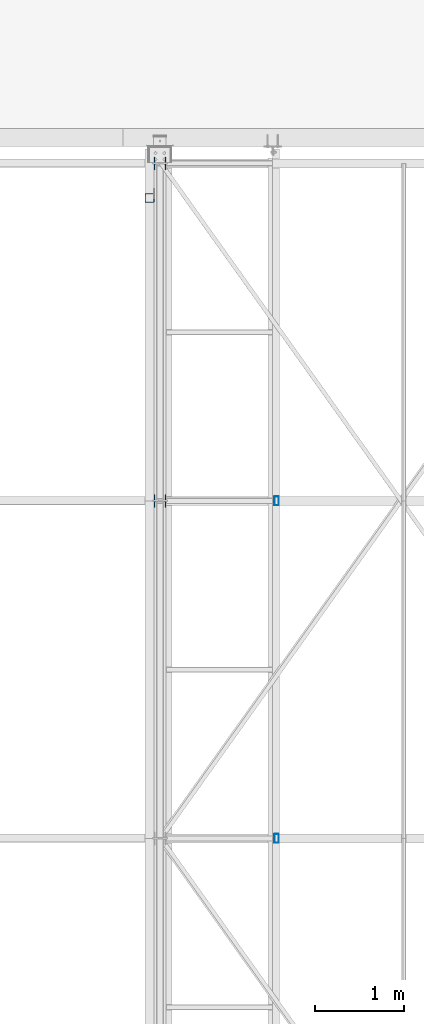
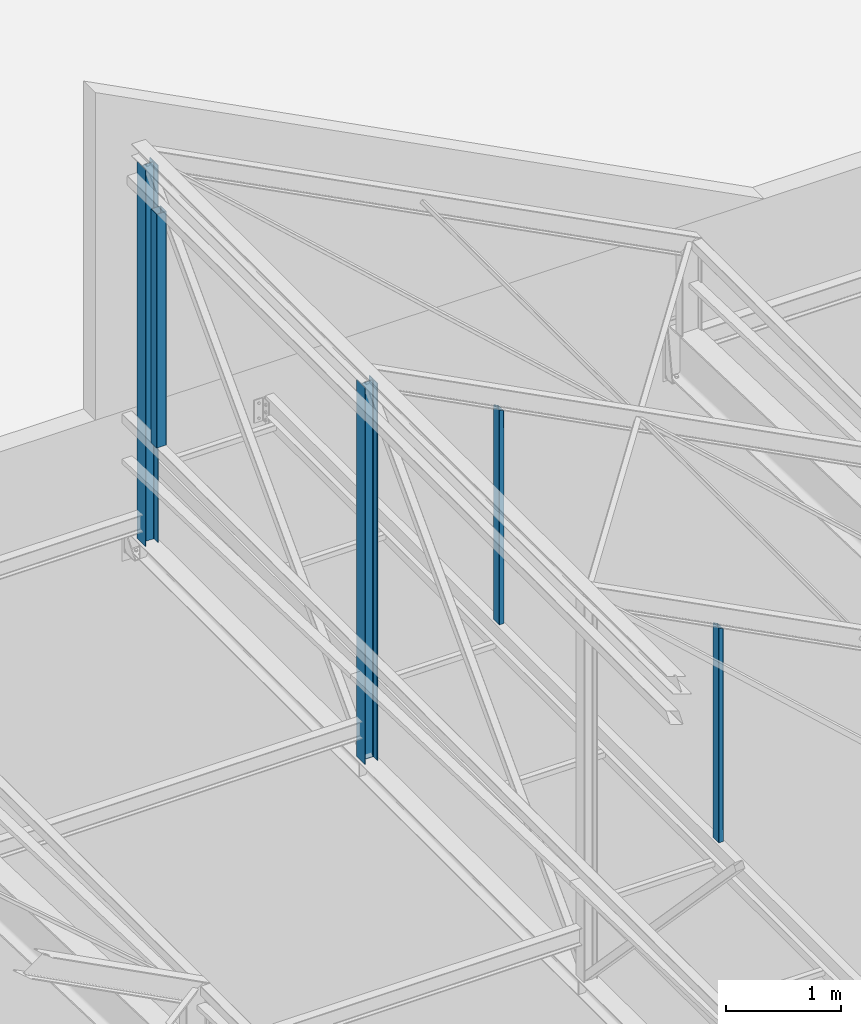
# One storey, part 9 of 123: 5 columns, 5 elements without a shape of their own.
"""IFC2X3 building model written with IfcOpenShell, lengths in millimetres."""

from ifc_helpers import new_model, si_unit, frame, origin_with_axes, origin_2d_with_axis, place, context, subcontext, project, spatial, hollow_rectangle, i_section, extrude, clip, halfspace, material, type_object, element, aggregate, save


model = new_model("IFC2X3")

# Units and contexts
model_context = context("Model", 3, precision=1e-05, world=origin_with_axes())
body_context = subcontext(model_context, "Body", "Model", "MODEL_VIEW")
ifc_project = project(units=[si_unit("LENGTHUNIT", "METRE", prefix="MILLI"), si_unit("AREAUNIT", "SQUARE_METRE"), si_unit("VOLUMEUNIT", "CUBIC_METRE"), si_unit("MASSUNIT", "GRAM", prefix="KILO"), si_unit("TIMEUNIT", "SECOND"), si_unit("PLANEANGLEUNIT", "RADIAN"), si_unit("SOLIDANGLEUNIT", "STERADIAN"), si_unit("THERMODYNAMICTEMPERATUREUNIT", "DEGREE_CELSIUS"), si_unit("LUMINOUSINTENSITYUNIT", "LUMEN")], contexts=[model_context])

# Site, building, storey
site_placement = place(None, origin_with_axes())
site = spatial("IfcSite", under=ifc_project, at=site_placement, Name="Undefined", CompositionType="ELEMENT")
building_placement = place(site_placement, origin_with_axes())
building = spatial("IfcBuilding", under=site, at=building_placement, Name="Undefined", CompositionType="ELEMENT")
storey_placement = place(building_placement, origin_with_axes())
storey = spatial("IfcBuildingStorey", under=building, at=storey_placement, Name="Undefined", CompositionType="ELEMENT", Elevation=0.0)

# Assembly, column
assembly_1_placement = place(storey_placement, origin_with_axes())
assembly_1 = element("IfcElementAssembly", 1, at=assembly_1_placement, inside=storey, Name="Steel Assembly", AssemblyPlace="NOTDEFINED", PredefinedType="RIGID_FRAME")
ifc_material_1 = material(Name="STEEL/S235-E24")
column_type_1 = type_object("IfcColumnType", Name="TUBE-R-100*50*3", PredefinedType="NOTDEFINED")
column_1_placement = place(assembly_1_placement, frame((24783.9916006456, 11400.0, 8240.0), z_axis=(0.0, 0.0, 1.0), x_axis=(0.0, -1.0, 0.0)))
column_1 = element("IfcColumn", 2, at=column_1_placement, type_object=column_type_1, material=ifc_material_1, Name="SUSPENTE", ObjectType="TUBE-R-100*50*3", context=body_context, shape_type="Clipping", body=[
    clip(extrude(hollow_rectangle(XDim=50.0, YDim=100.0, WallThickness=3.0, InnerFilletRadius=3.0, OuterFilletRadius=6.0, at=origin_2d_with_axis()), frame((0.0, 0.0, 2272.19184626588), z_axis=(0.0, 0.0, -1.0), x_axis=(0.0, 1.0, 0.0)), (0.0, 0.0, 1.0), 2272.2), halfspace(frame((0.0, -46.0305694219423, 2282.96030677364), z_axis=(0.0, -0.460093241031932, -0.887870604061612), x_axis=(1.0, 0.0, 0.0)), True)),
])
aggregate(assembly_1, [column_1])

assembly_2_placement = place(storey_placement, origin_with_axes())
assembly_2 = element("IfcElementAssembly", 3, at=assembly_2_placement, inside=storey, Name="Steel Assembly", AssemblyPlace="NOTDEFINED", PredefinedType="RIGID_FRAME")
column_2_placement = place(assembly_2_placement, frame((24783.9916006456, 7600.0, 8240.0), z_axis=(0.0, 0.0, 1.0), x_axis=(0.0, -1.0, 0.0)))
column_2 = element("IfcColumn", 4, at=column_2_placement, type_object=column_type_1, material=ifc_material_1, Name="SUSPENTE", ObjectType="TUBE-R-100*50*3", context=body_context, shape_type="Clipping", body=[
    clip(extrude(hollow_rectangle(XDim=50.0, YDim=100.0, WallThickness=3.0, InnerFilletRadius=3.0, OuterFilletRadius=6.0, at=origin_2d_with_axis()), frame((0.0, 0.0, 2272.19184626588), z_axis=(0.0, 0.0, -1.0), x_axis=(0.0, 1.0, 0.0)), (0.0, 0.0, 1.0), 2272.2), halfspace(frame((0.0, -46.0305694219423, 2282.96030677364), z_axis=(0.0, -0.460093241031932, -0.887870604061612), x_axis=(1.0, 0.0, 0.0)), True)),
])
aggregate(assembly_2, [column_2])

assembly_3_placement = place(storey_placement, origin_with_axes())
assembly_3 = element("IfcElementAssembly", 5, at=assembly_3_placement, inside=storey, Name="Steel Assembly", AssemblyPlace="NOTDEFINED", PredefinedType="RIGID_FRAME")
ifc_material_2 = material(Name="STEEL/S275-E28")
column_type_2 = type_object("IfcColumnType", Name="HEA140", PredefinedType="NOTDEFINED")
column_3_placement = place(assembly_3_placement, frame((23470.0, 11400.0, 7250.0), z_axis=(0.0, 0.0, 1.0), x_axis=(-1.0, 0.0, 0.0)))
column_3 = element("IfcColumn", 6, at=column_3_placement, type_object=column_type_2, material=ifc_material_2, Name="MONTANT", ObjectType="HEA140", context=body_context, shape_type="SweptSolid", body=[
    extrude(i_section(OverallWidth=140.0, OverallDepth=133.0, WebThickness=5.5, FlangeThickness=8.5, FilletRadius=12.0, at=origin_2d_with_axis()), frame((0.0, 0.0, 3986.0), z_axis=(0.0, 0.0, -1.0), x_axis=(0.0, 1.0, 0.0)), (0.0, 0.0, 1.0), 3986.0),
])
aggregate(assembly_3, [column_3])

assembly_4_placement = place(storey_placement, origin_with_axes())
assembly_4 = element("IfcElementAssembly", 7, at=assembly_4_placement, inside=storey, Name="Steel Assembly", AssemblyPlace="NOTDEFINED", PredefinedType="RIGID_FRAME")
column_4_placement = place(assembly_4_placement, frame((23470.0, 15200.0, 7250.0), z_axis=(0.0, 0.0, 1.0), x_axis=(-1.0, 0.0, 0.0)))
column_4 = element("IfcColumn", 8, at=column_4_placement, type_object=column_type_2, material=ifc_material_2, Name="MONTANT", ObjectType="HEA140", context=body_context, shape_type="SweptSolid", body=[
    extrude(i_section(OverallWidth=140.0, OverallDepth=133.0, WebThickness=5.5, FlangeThickness=8.5, FilletRadius=12.0, at=origin_2d_with_axis()), frame((0.0, 0.0, 3986.0), z_axis=(0.0, 0.0, -1.0), x_axis=(0.0, 1.0, 0.0)), (0.0, 0.0, 1.0), 3986.0),
])
aggregate(assembly_4, [column_4])

assembly_5_placement = place(storey_placement, origin_with_axes())
assembly_5 = element("IfcElementAssembly", 9, at=assembly_5_placement, inside=storey, Name="Steel Assembly", AssemblyPlace="NOTDEFINED", PredefinedType="RIGID_FRAME")
column_type_3 = type_object("IfcColumnType", Name="TUBE-C-100*100*4", PredefinedType="NOTDEFINED")
column_5_placement = place(assembly_5_placement, frame((23353.5000102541, 14810.0000787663, 8550.00000000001), z_axis=(0.0, 0.0, 1.0), x_axis=(0.0, 1.0, 0.0)))
column_5 = element("IfcColumn", 10, at=column_5_placement, type_object=column_type_3, material=ifc_material_1, Name="MONTANT", ObjectType="TUBE-C-100*100*4", context=body_context, shape_type="SweptSolid", body=[
    extrude(hollow_rectangle(XDim=100.0, YDim=100.0, WallThickness=4.0, InnerFilletRadius=4.0, OuterFilletRadius=8.0, at=origin_2d_with_axis()), frame((0.0, 0.0, 2470.0), z_axis=(0.0, 0.0, -1.0), x_axis=(0.0, 1.0, 0.0)), (0.0, 0.0, 1.0), 2470.0),
])
aggregate(assembly_5, [column_5])

save(model, "model.ifc")
